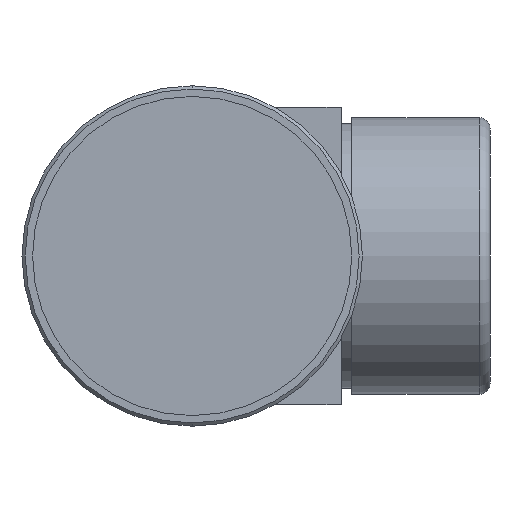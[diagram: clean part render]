
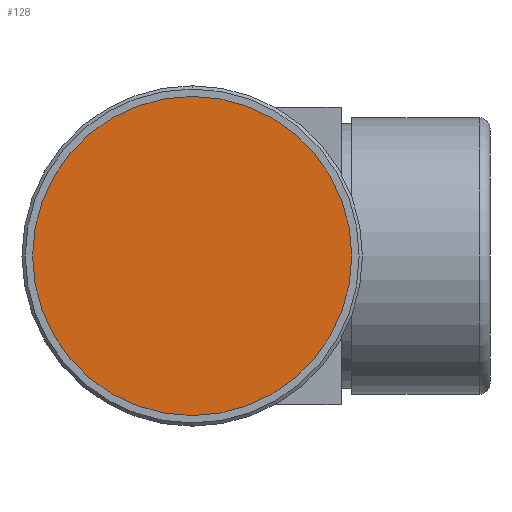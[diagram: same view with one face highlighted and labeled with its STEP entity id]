
A CAD part, left-side view. The second image highlights one B-rep face of the part: STEP entity #128.
In plain terms, the highlighted planar face has unit normal (-1, 0, 0).
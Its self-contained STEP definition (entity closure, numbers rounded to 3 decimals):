
#67 = CARTESIAN_POINT ( 'NONE',  ( 2.5, 0., 0. ) ) ;
#80 = DIRECTION ( 'NONE',  ( -1., 0., 0. ) ) ;
#128 = ADVANCED_FACE ( 'NONE', ( #773 ), #176, .T. ) ;
#155 = DIRECTION ( 'NONE',  ( 0., 0., 1. ) ) ;
#168 = CARTESIAN_POINT ( 'NONE',  ( 2.5, 0., 0. ) ) ;
#176 = PLANE ( 'NONE',  #1077 ) ;
#191 = DIRECTION ( 'NONE',  ( 0., 0., 1. ) ) ;
#192 = EDGE_CURVE ( 'NONE', #1167, #891, #899, .T. ) ;
#279 = DIRECTION ( 'NONE',  ( -1., 0., 0. ) ) ;
#299 = CARTESIAN_POINT ( 'NONE',  ( 2.5, 0., 0. ) ) ;
#438 = ORIENTED_EDGE ( 'NONE', *, *, #1046, .T. ) ;
#548 = DIRECTION ( 'NONE',  ( 0., 0., 1. ) ) ;
#720 = AXIS2_PLACEMENT_3D ( 'NONE', #299, #1112, #191 ) ;
#773 = FACE_OUTER_BOUND ( 'NONE', #867, .T. ) ;
#867 = EDGE_LOOP ( 'NONE', ( #1509, #438 ) ) ;
#891 = VERTEX_POINT ( 'NONE', #910 ) ;
#899 = CIRCLE ( 'NONE', #720, 15. ) ;
#910 = CARTESIAN_POINT ( 'NONE',  ( 2.5, 0., -15. ) ) ;
#949 = AXIS2_PLACEMENT_3D ( 'NONE', #67, #80, #548 ) ;
#1046 = EDGE_CURVE ( 'NONE', #891, #1167, #1251, .T. ) ;
#1077 = AXIS2_PLACEMENT_3D ( 'NONE', #168, #279, #155 ) ;
#1112 = DIRECTION ( 'NONE',  ( -1., 0., 0. ) ) ;
#1167 = VERTEX_POINT ( 'NONE', #1400 ) ;
#1251 = CIRCLE ( 'NONE', #949, 15. ) ;
#1400 = CARTESIAN_POINT ( 'NONE',  ( 2.5, 0., 15. ) ) ;
#1509 = ORIENTED_EDGE ( 'NONE', *, *, #192, .T. ) ;
